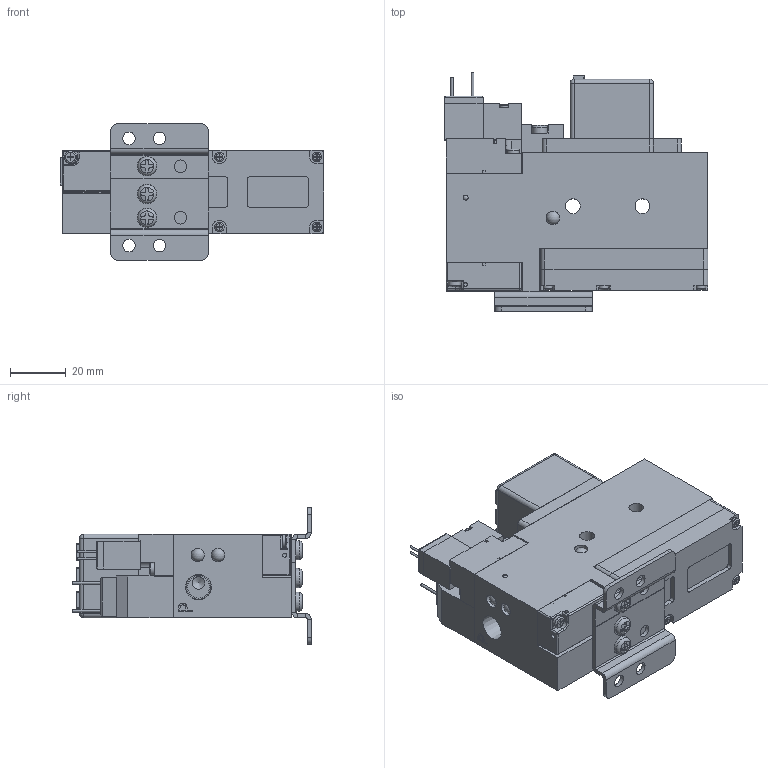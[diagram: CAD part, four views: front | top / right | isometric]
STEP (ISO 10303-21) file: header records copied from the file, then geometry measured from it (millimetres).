
FILE_DESCRIPTION (( 'STEP AP214' ), '1' );
FILE_NAME ('~NV-30V(X5).STEP', '2018-10-30T09:03:57', ( 'Casper' ), ( '' ), 'SwSTEP 2.0', 'SolidWorks 2015', '' );
FILE_SCHEMA (( 'AUTOMOTIVE_DESIGN' ));
Length unit declared in the file: millimetre
Products named in the file (28): 引導閥活塞組(X2); M4x0.7x5-十字圓頭螺栓; 2分活塞U軸封(10x14.1x1.6); 固定支架-左_單連用; 固定支架-右; NV-5500-H01_NV5500引導閥活塞; O環(7x10x1.5); M3x0.5x5內六角螺栓; O環(9.53x11.53x1); NV-30V-D01_NV-30V轉接塊(X3); 鋼珠-S16(3.5); 鋼珠-S16(5); 鋼珠-S16(2); M2.5x10螺絲; M2x15螺絲; NVS-5500-K01_NVS5500端蓋(00)射出; 壓力表_NP47(M5); O環(4x2x1); NV-2010V-Q01_NV-2010V調整螺絲(00)_加O環; NV-5320-E01_NV5320閥桿_加O環; PIAB-M20L; NV-30V-C01_NV-30V本體(X4); PIAB-M20L-中; PIAB-M20L-下; ~NV-30V(X5); 15mm線圈(G); 10mm線圈(G); NVS-5500-J01_NVS5500引導閥(01)
Assembly tree (45 placements, depth 3):
  ~NV-30V(X5)
    NV-30V-C01_NV-30V本體(X4)
    NV-5320-E01_NV5320閥桿_加O環
    O環(4x2x1)  x2
    NVS-5500-K01_NVS5500端蓋(00)射出
    M2.5x10螺絲  x4
    引導閥活塞組(X2)
      NV-5500-H01_NV5500引導閥活塞
      2分活塞U軸封(10x14.1x1.6)
    NVS-5500-J01_NVS5500引導閥(01)
    10mm線圈(G)
    15mm線圈(G)
    PIAB-M20L
      PIAB-M20L-下
      PIAB-M20L-中
    NV-2010V-Q01_NV-2010V調整螺絲(00)_加O環
    壓力表_NP47(M5)
    M2x15螺絲  x6
    鋼珠-S16(2)  x2
    鋼珠-S16(5)  x4
    鋼珠-S16(3.5)
    NV-30V-D01_NV-30V轉接塊(X3)
    O環(9.53x11.53x1)
    M3x0.5x5內六角螺栓  x4
    O環(7x10x1.5)
    固定支架-右
    固定支架-左_單連用
    M4x0.7x5-十字圓頭螺栓  x3
Bounding box: 94.7 x 85.7 x 49 mm (x, y, z)
Volume: 153756 mm3; surface area: 68668.7 mm2
Topology: 58 solids, 58 shells, 1625 faces, 4034 edges, 2609 vertices
Faces by surface type: plane 965, cylinder 438, cone 106, bspline 53, torus 52, sphere 11
Full cylindrical faces by diameter (mm): 0.75 x2, 1 x4, 1.2 x2, 1.25 x2, 1.4 x9, 1.5 x4, 1.6 x8, 1.7 x2, 1.8 x2, 1.9 x2, 2 x25, 2.05 x4, 2.4 x2, 2.5 x27, 2.8 x4, 2.9 x3, 3 x19, 3.1 x2, 3.2 x12, 3.3 x4, 3.4 x8, 3.5 x5, 3.6 x3, 4 x8, 4.2 x1, 4.5 x21, 4.8 x7, 5 x1, 5.3 x4, 5.4 x1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
Entity records: 43175 total; most frequent: CARTESIAN_POINT 9774, DIRECTION 6099, ORIENTED_EDGE 5734, EDGE_CURVE 2867, AXIS2_PLACEMENT_3D 2166, VERTEX_POINT 2028, EDGE_LOOP 1909, VECTOR 1767
